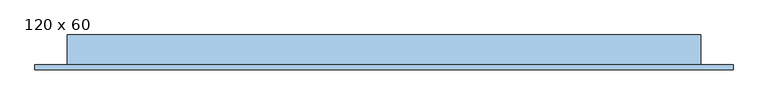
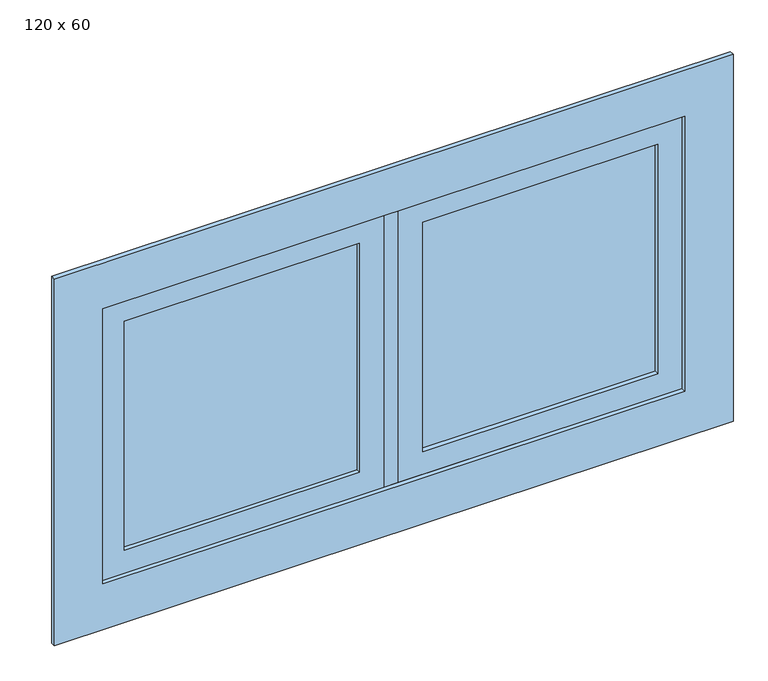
"""IFC4 building model written with IfcOpenShell, lengths in millimetres: window geometry, JANELA COM ESQUADRIA MAXIM-AR - 2 FOLHAS : 120 x 60."""

from ifc_helpers import new_model, si_unit, frame, origin, place, context, project, spatial, polyline, outline, extrude, source, transform, mapped, element, save


def window_120_x_60_a7597752(model_context):
    return source(origin(), model_context, "Body", "SweptSolid", [
        extrude(outline(polyline([(194.4035509, -60.3758395), (679.4035509, -60.3758395), (679.4035509, -66.3758395), (194.4035509, -66.3758395), (194.4035509, -60.3758395)])), frame((0.0, 0.0, 1650.0), z_axis=(0.0, 0.0, 1.0), x_axis=(1.0, 0.0, 0.0)), (0.0, 0.0, 1.0), 500.0),
        extrude(outline(polyline([(2200.0, 144.4035509), (1600.0, 144.4035509), (1600.0, 729.4035509), (2200.0, 729.4035509), (2200.0, 144.4035509)]), holes=[polyline([(2150.0, 194.4035509), (2150.0, 679.4035509), (1650.0, 679.4035509), (1650.0, 194.4035509), (2150.0, 194.4035509)])]), frame((0.0, -75.8758395, 0.0), z_axis=(0.0, 1.0, 0.0), x_axis=(0.0, 0.0, 1.0)), (0.0, 0.0, 1.0), 25.0),
        extrude(outline(polyline([(-420.5964491, -60.3758395), (64.4035509, -60.3758395), (64.4035509, -66.3758395), (-420.5964491, -66.3758395), (-420.5964491, -60.3758395)])), frame((0.0, 0.0, 1650.0), z_axis=(0.0, 0.0, 1.0), x_axis=(1.0, 0.0, 0.0)), (0.0, 0.0, 1.0), 500.0),
        extrude(outline(polyline([(2200.0, -470.5964491), (1600.0, -470.5964491), (1600.0, 114.4035509), (2200.0, 114.4035509), (2200.0, -470.5964491)]), holes=[polyline([(2150.0, -420.5964491), (2150.0, 64.4035509), (1650.0, 64.4035509), (1650.0, -420.5964491), (2150.0, -420.5964491)])]), frame((0.0, -75.8758395, 0.0), z_axis=(0.0, 1.0, 0.0), x_axis=(0.0, 0.0, 1.0)), (0.0, 0.0, 1.0), 25.0),
        extrude(outline(polyline([(1500.0, -570.5964491), (1500.0, 829.4035509), (2300.0, 829.4035509), (2300.0, -570.5964491), (1500.0, -570.5964491)]), holes=[polyline([(2200.0, -470.5964491), (2200.0, 729.4035509), (1600.0, 729.4035509), (1600.0, -470.5964491), (2200.0, -470.5964491)])]), frame((0.0, -85.8758395, 0.0), z_axis=(0.0, 1.0, 0.0), x_axis=(0.0, 0.0, 1.0)), (0.0, 0.0, 1.0), 10.0),
        extrude(outline(polyline([(114.4035509, -75.8758395), (114.4035509, -15.8758395), (144.4035509, -15.8758395), (144.4035509, -75.8758395), (114.4035509, -75.8758395)])), frame((0.0, 0.0, 1600.0), z_axis=(0.0, 0.0, 1.0), x_axis=(1.0, 0.0, 0.0)), (0.0, 0.0, 1.0), 600.0),
        extrude(outline(polyline([(-505.5964491, -15.8758395), (-470.5964491, -15.8758395), (-470.5964491, -75.8758395), (-505.5964491, -75.8758395), (-505.5964491, -15.8758395)])), frame((0.0, 0.0, 1600.0), z_axis=(0.0, 0.0, 1.0), x_axis=(1.0, 0.0, 0.0)), (0.0, 0.0, 1.0), 600.0),
        extrude(outline(polyline([(729.4035509, -15.8758395), (764.4035509, -15.8758395), (764.4035509, -75.8758395), (729.4035509, -75.8758395), (729.4035509, -15.8758395)])), frame((0.0, 0.0, 1600.0), z_axis=(0.0, 0.0, 1.0), x_axis=(1.0, 0.0, 0.0)), (0.0, 0.0, 1.0), 600.0),
        extrude(outline(polyline([(-505.5964491, -15.8758395), (764.4035509, -15.8758395), (764.4035509, -75.8758395), (-505.5964491, -75.8758395), (-505.5964491, -15.8758395)])), frame((0.0, 0.0, 1565.0), z_axis=(0.0, 0.0, 1.0), x_axis=(1.0, 0.0, 0.0)), (0.0, 0.0, 1.0), 35.0),
        extrude(outline(polyline([(-505.5964491, -15.8758395), (764.4035509, -15.8758395), (764.4035509, -75.8758395), (-505.5964491, -75.8758395), (-505.5964491, -15.8758395)])), frame((0.0, 0.0, 2200.0), z_axis=(0.0, 0.0, 1.0), x_axis=(1.0, 0.0, 0.0)), (0.0, 0.0, 1.0), 35.0),
    ])


if __name__ == "__main__":
    model = new_model("IFC4")
    model_context = context("Model", 3, world=origin())
    ifc_project = project(units=[si_unit("LENGTHUNIT", "METRE", prefix="MILLI")], contexts=[model_context])
    site = spatial("IfcSite", under=ifc_project)
    building = spatial("IfcBuilding", under=site)
    placement = place(None, origin())
    window_120_x_60_shape = window_120_x_60_a7597752(model_context)
    element("IfcWindow", 1, ObjectType="JANELA COM ESQUADRIA MAXIM-AR - 2 FOLHAS : 120 x 60", at=placement, inside=building, context=model_context, shape_type="MappedRepresentation", body=[
        mapped(window_120_x_60_shape, transform((0.0, 0.0, 0.0), x_axis=(1.0, 0.0, 0.0), y_axis=(0.0, 1.0, 0.0), z_axis=(0.0, 0.0, 1.0))),
    ])
    save(model, "model.ifc")
